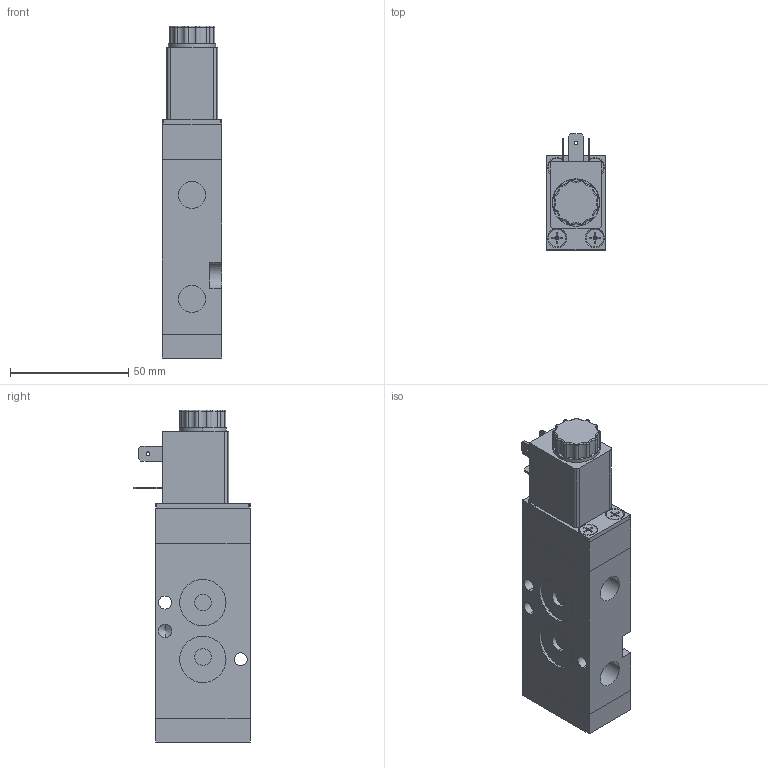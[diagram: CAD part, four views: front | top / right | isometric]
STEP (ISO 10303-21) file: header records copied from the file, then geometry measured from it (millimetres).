
FILE_DESCRIPTION (( 'STEP AP214' ), '1' );
FILE_NAME ('KNX-55-311-HN-F42_Airtec.step', '2019-01-07T10:23:01', ( '' ), ( '' ), 'SwSTEP 2.0', 'SolidWorks 2010', '' );
FILE_SCHEMA (( 'AUTOMOTIVE_DESIGN' ));
Length unit declared in the file: millimetre
Products named in the file (3): Volumenkörper6; Volumenkörper1-1; KNX-55-311-HN-F42_Airtec
Assembly tree (2 placements, depth 2):
  KNX-55-311-HN-F42_Airtec
    Volumenkörper1-1
    Volumenkörper6
Bounding box: 25 x 49.2 x 140.5 mm (x, y, z)
Volume: 116536.6 mm3; surface area: 26566.7 mm2
Topology: 2 solids, 2 shells, 726 faces, 1891 edges, 1210 vertices
Faces by surface type: plane 395, cylinder 153, cone 96, torus 66, bspline 16
Entity records: 28188 total; most frequent: CARTESIAN_POINT 6288, ORIENTED_EDGE 3758, DIRECTION 3617, EDGE_CURVE 1879, AXIS2_PLACEMENT_3D 1245, VERTEX_POINT 1210, VECTOR 1127, LINE 1127
